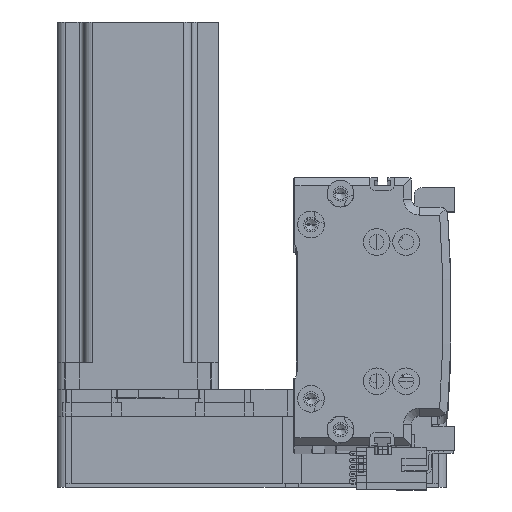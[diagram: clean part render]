
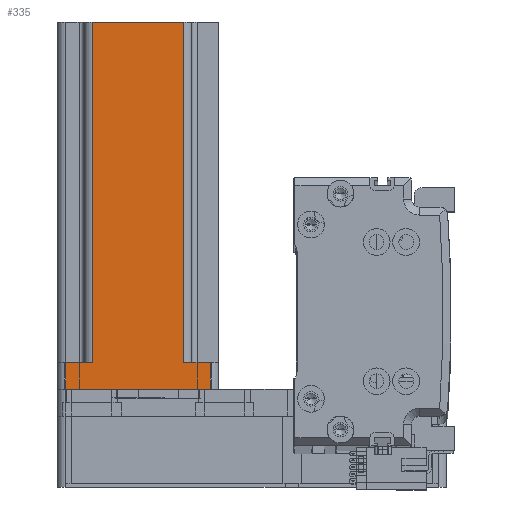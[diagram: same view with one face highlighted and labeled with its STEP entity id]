
A CAD part, top view. The second image highlights one B-rep face of the part: STEP entity #335.
In plain terms, the highlighted planar face has unit normal (0, 0, 1) as drawn and (0, 1, 0) by its records, which use the part's own axes.
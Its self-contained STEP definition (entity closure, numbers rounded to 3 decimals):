
#335 = ADVANCED_FACE ( 'NONE', ( #23947 ), #32024, .F. ) ;
#977 = CARTESIAN_POINT ( 'NONE',  ( 17., 30., 137. ) ) ;
#2761 = DIRECTION ( 'NONE',  ( -1., 0., 0. ) ) ;
#3134 = EDGE_LOOP ( 'NONE', ( #61550, #24105, #5515, #33931, #11857, #33484, #20454, #45509 ) ) ;
#3227 = DIRECTION ( 'NONE',  ( 0., 0., 1. ) ) ;
#3925 = VECTOR ( 'NONE', #46977, 1000. ) ;
#4572 = CARTESIAN_POINT ( 'NONE',  ( -27., 30., 10. ) ) ;
#5176 = EDGE_CURVE ( 'NONE', #62494, #10663, #53266, .T. ) ;
#5515 = ORIENTED_EDGE ( 'NONE', *, *, #35026, .F. ) ;
#6265 = EDGE_CURVE ( 'NONE', #15713, #43319, #10869, .T. ) ;
#10663 = VERTEX_POINT ( 'NONE', #52387 ) ;
#10869 = LINE ( 'NONE', #28844, #23643 ) ;
#11857 = ORIENTED_EDGE ( 'NONE', *, *, #48605, .F. ) ;
#12439 = CARTESIAN_POINT ( 'NONE',  ( -20., 30., 10. ) ) ;
#14547 = EDGE_CURVE ( 'NONE', #48141, #45223, #23939, .T. ) ;
#15713 = VERTEX_POINT ( 'NONE', #43223 ) ;
#17980 = CARTESIAN_POINT ( 'NONE',  ( 30., 30., 0. ) ) ;
#18927 = CARTESIAN_POINT ( 'NONE',  ( 27., 30., 0. ) ) ;
#19876 = VECTOR ( 'NONE', #61752, 1000. ) ;
#20215 = EDGE_CURVE ( 'NONE', #43319, #48141, #53749, .T. ) ;
#20454 = ORIENTED_EDGE ( 'NONE', *, *, #20215, .T. ) ;
#20672 = CARTESIAN_POINT ( 'NONE',  ( 17., 30., 10. ) ) ;
#20694 = DIRECTION ( 'NONE',  ( 0., 0., -1. ) ) ;
#22437 = VECTOR ( 'NONE', #53876, 1000. ) ;
#22518 = DIRECTION ( 'NONE',  ( 0., -1., 0. ) ) ;
#23069 = CARTESIAN_POINT ( 'NONE',  ( 30., 30., 137. ) ) ;
#23643 = VECTOR ( 'NONE', #57768, 1000. ) ;
#23939 = LINE ( 'NONE', #29987, #22437 ) ;
#23947 = FACE_OUTER_BOUND ( 'NONE', #3134, .T. ) ;
#24105 = ORIENTED_EDGE ( 'NONE', *, *, #5176, .T. ) ;
#26110 = VECTOR ( 'NONE', #20694, 1000. ) ;
#26937 = VERTEX_POINT ( 'NONE', #20672 ) ;
#27510 = VECTOR ( 'NONE', #3227, 1000. ) ;
#27631 = LINE ( 'NONE', #54665, #26110 ) ;
#28844 = CARTESIAN_POINT ( 'NONE',  ( 27., 30., 137. ) ) ;
#29561 = EDGE_CURVE ( 'NONE', #31060, #26937, #27631, .T. ) ;
#29987 = CARTESIAN_POINT ( 'NONE',  ( -27., 30., 137. ) ) ;
#31060 = VERTEX_POINT ( 'NONE', #977 ) ;
#31284 = EDGE_CURVE ( 'NONE', #45223, #62494, #55257, .T. ) ;
#31643 = CARTESIAN_POINT ( 'NONE',  ( 20., 30., 10. ) ) ;
#32024 = PLANE ( 'NONE',  #61532 ) ;
#32065 = CARTESIAN_POINT ( 'NONE',  ( -17., 30., 137. ) ) ;
#33484 = ORIENTED_EDGE ( 'NONE', *, *, #6265, .T. ) ;
#33931 = ORIENTED_EDGE ( 'NONE', *, *, #29561, .T. ) ;
#35026 = EDGE_CURVE ( 'NONE', #31060, #10663, #61437, .T. ) ;
#36704 = VECTOR ( 'NONE', #2761, 1000. ) ;
#39184 = CARTESIAN_POINT ( 'NONE',  ( -17., 30., 10. ) ) ;
#42425 = VECTOR ( 'NONE', #46293, 1000. ) ;
#43223 = CARTESIAN_POINT ( 'NONE',  ( 27., 30., 10. ) ) ;
#43319 = VERTEX_POINT ( 'NONE', #18927 ) ;
#45223 = VERTEX_POINT ( 'NONE', #4572 ) ;
#45509 = ORIENTED_EDGE ( 'NONE', *, *, #14547, .T. ) ;
#46293 = DIRECTION ( 'NONE',  ( 1., 0., 0. ) ) ;
#46977 = DIRECTION ( 'NONE',  ( -1., 0., 0. ) ) ;
#47854 = CARTESIAN_POINT ( 'NONE',  ( -27., 30., 0. ) ) ;
#48141 = VERTEX_POINT ( 'NONE', #47854 ) ;
#48605 = EDGE_CURVE ( 'NONE', #15713, #26937, #52596, .T. ) ;
#51458 = CARTESIAN_POINT ( 'NONE',  ( 30., 30., 137. ) ) ;
#52387 = CARTESIAN_POINT ( 'NONE',  ( -17., 30., 137. ) ) ;
#52596 = LINE ( 'NONE', #31643, #36704 ) ;
#53266 = LINE ( 'NONE', #32065, #27510 ) ;
#53749 = LINE ( 'NONE', #17980, #3925 ) ;
#53876 = DIRECTION ( 'NONE',  ( 0., 0., 1. ) ) ;
#54665 = CARTESIAN_POINT ( 'NONE',  ( 17., 30., 137. ) ) ;
#55257 = LINE ( 'NONE', #12439, #42425 ) ;
#56279 = DIRECTION ( 'NONE',  ( 1., 0., 0. ) ) ;
#57768 = DIRECTION ( 'NONE',  ( 0., 0., -1. ) ) ;
#61437 = LINE ( 'NONE', #23069, #19876 ) ;
#61532 = AXIS2_PLACEMENT_3D ( 'NONE', #51458, #22518, #56279 ) ;
#61550 = ORIENTED_EDGE ( 'NONE', *, *, #31284, .T. ) ;
#61752 = DIRECTION ( 'NONE',  ( -1., 0., 0. ) ) ;
#62494 = VERTEX_POINT ( 'NONE', #39184 ) ;
